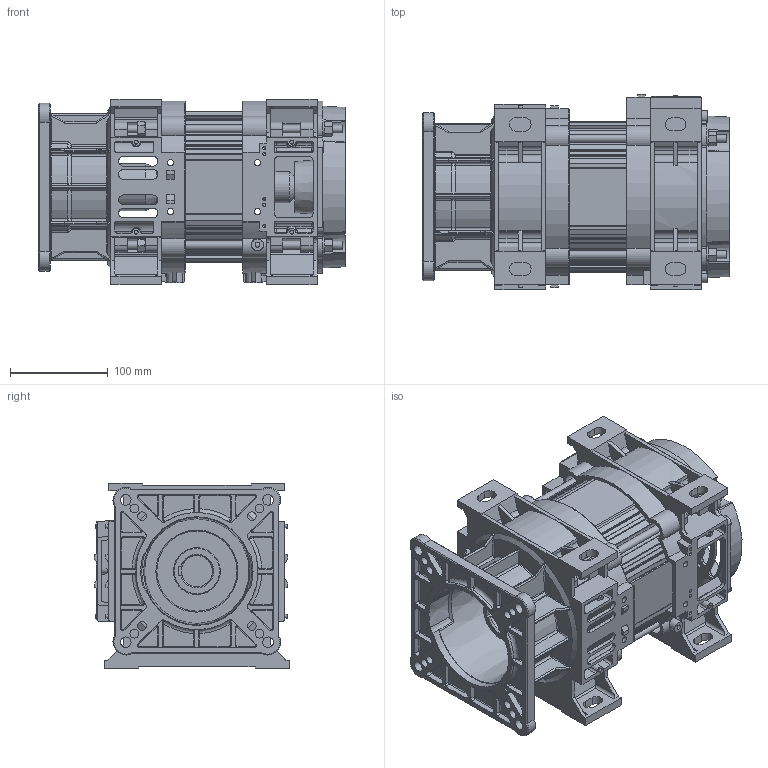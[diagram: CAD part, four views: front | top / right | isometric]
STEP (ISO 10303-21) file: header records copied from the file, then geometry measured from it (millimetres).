
FILE_DESCRIPTION(/* description */ ('Motore Tipo S4X Fl.111.1 F32-H80 NO Volano NO Piedi'),/* implementation_level */ '2;1');
FILE_NAME(/* name */ 'Y:\ServerTecnico\Mockup Motori x Sito Elmo\Mockup Tipo S4X Size 1 FL111 F32-H80 NO Volano.stp',/* time_stamp */ '2019-05-27T11:41:09+02:00',/* author */ ('aparmini'),/* organization */ (''),/* preprocessor_version */ 'ST-DEVELOPER v16.5',/* originating_system */ 'Autodesk Inventor 2017',/* authorisation */ '');
FILE_SCHEMA (('AUTOMOTIVE_DESIGN { 1 0 10303 214 3 1 1 }'));
Products named in the file (8): Mockup Tipo S4X Size 1 FL111 F32-H80 NO Volano; Mockup Statore Size 1 - F32-H80 NO Volano; TGS10; Mockup CA1SD111N; Mockup CP1XD040N; TI08ML220; UNI 5587 - M8; DIN 125-2 - B 8,4
Assembly tree (20 placements, depth 2):
  Mockup Tipo S4X Size 1 FL111 F32-H80 NO Volano
    Mockup Statore Size 1 - F32-H80 NO Volano
    TGS10
    Mockup CA1SD111N
    Mockup CP1XD040N
    UNI 5587 - M8  x8
    TI08ML220  x4
    DIN 125-2 - B 8,4  x4
Bounding box: 314 x 200 x 190 mm (x, y, z)
Volume: 3117626 mm3; surface area: 718733.1 mm2
Topology: 20 solids, 20 shells, 2588 faces, 7036 edges, 4479 vertices
Faces by surface type: plane 1009, cylinder 966, bspline 251, cone 246, torus 100, sphere 16
Full cylindrical faces by diameter (mm): 3.2 x5, 4 x8, 4.917 x2, 5 x4, 6.2 x8, 6.647 x8, 8 x4, 8.4 x4, 9 x8, 10 x8, 11 x4, 12 x4, 16 x4, 17 x1, 21 x1, 32 x2, 38 x1, 48 x1, 82 x1
Entity records: 82949 total; most frequent: CARTESIAN_POINT 21117, DIRECTION 13108, ORIENTED_EDGE 13014, EDGE_CURVE 6495, AXIS2_PLACEMENT_3D 4905, VERTEX_POINT 4230, LINE 3298, VECTOR 3298
